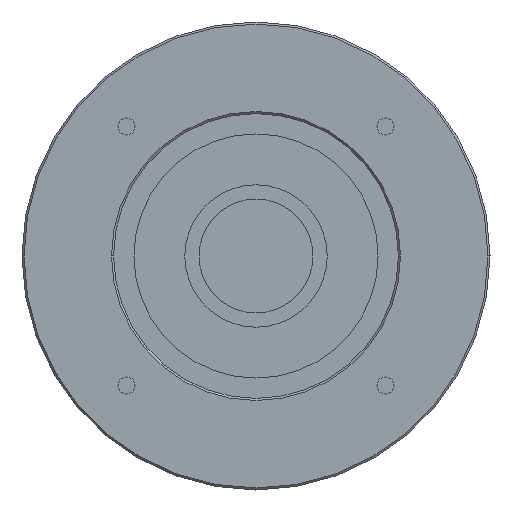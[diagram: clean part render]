
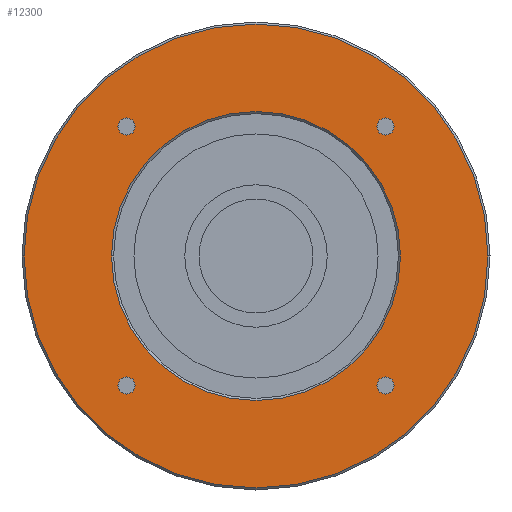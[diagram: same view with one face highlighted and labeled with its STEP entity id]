
A CAD part, left-side view. The second image highlights one B-rep face of the part: STEP entity #12300.
In plain terms, the highlighted planar face has unit normal (-1, 0, 0) as drawn and (0, 0, -1) by its records, which use the part's own axes.
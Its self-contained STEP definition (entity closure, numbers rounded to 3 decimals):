
#8810=CARTESIAN_POINT('',(31.82,-29.72,-64.4));
#8820=VERTEX_POINT('',#8810);
#8870=CARTESIAN_POINT('',(31.82,-31.82,-64.4));
#8880=DIRECTION('',(0.,0.,-1.));
#8890=DIRECTION('',(1.,0.,0.));
#8900=AXIS2_PLACEMENT_3D('',#8870,#8880,#8890);
#8910=CIRCLE('',#8900,2.1);
#8920=CARTESIAN_POINT('',(31.82,-33.92,-64.4));
#8930=VERTEX_POINT('',#8920);
#8940=EDGE_CURVE('',#8930,#8820,#8910,.T.);
#9230=CARTESIAN_POINT('',(31.82,33.92,-64.4));
#9240=VERTEX_POINT('',#9230);
#9290=CARTESIAN_POINT('',(31.82,31.82,-64.4));
#9300=DIRECTION('',(0.,0.,-1.));
#9310=DIRECTION('',(1.,0.,0.));
#9320=AXIS2_PLACEMENT_3D('',#9290,#9300,#9310);
#9330=CIRCLE('',#9320,2.1);
#9340=CARTESIAN_POINT('',(31.82,29.72,-64.4));
#9350=VERTEX_POINT('',#9340);
#9360=EDGE_CURVE('',#9350,#9240,#9330,.T.);
#11130=CARTESIAN_POINT('',(57.,0.,-64.4));
#11140=VERTEX_POINT('',#11130);
#11170=CARTESIAN_POINT('',(0.,0.,
-64.4));
#11180=DIRECTION('',(0.,0.,-1.));
#11190=DIRECTION('',(0.,-1.,0.));
#11200=AXIS2_PLACEMENT_3D('',#11170,#11180,#11190);
#11210=CIRCLE('',#11200,57.);
#11220=CARTESIAN_POINT('',(0.,-57.,-64.4));
#11230=VERTEX_POINT('',#11220);
#11240=EDGE_CURVE('',#11140,#11230,#11210,.T.);
#11260=CARTESIAN_POINT('',(-57.,0.,-64.4));
#11270=VERTEX_POINT('',#11260);
#11280=EDGE_CURVE('',#11230,#11270,#11210,.T.);
#11440=CARTESIAN_POINT('',(0.,0.,
-64.4));
#11450=DIRECTION('',(0.,0.,-1.));
#11460=DIRECTION('',(0.,-1.,0.));
#11470=AXIS2_PLACEMENT_3D('',#11440,#11450,#11460);
#11480=PLANE('',#11470);
#11490=EDGE_CURVE('',#11270,#11140,#11210,.T.);
#11500=ORIENTED_EDGE('',*,*,#11490,.T.);
#11510=ORIENTED_EDGE('',*,*,#11280,.T.);
#11520=ORIENTED_EDGE('',*,*,#11240,.T.);
#11530=EDGE_LOOP('',(#11520,#11510,#11500));
#11540=FACE_OUTER_BOUND('',#11530,.T.);
#11550=CARTESIAN_POINT('',(0.,0.,
-64.4));
#11560=DIRECTION('',(0.,0.,-1.));
#11570=DIRECTION('',(0.,-1.,0.));
#11580=AXIS2_PLACEMENT_3D('',#11550,#11560,#11570);
#11590=CIRCLE('',#11580,35.5);
#11600=CARTESIAN_POINT('',(0.,-35.5,-64.4));
#11610=VERTEX_POINT('',#11600);
#11620=CARTESIAN_POINT('',(-35.5,0.,-64.4));
#11630=VERTEX_POINT('',#11620);
#11640=EDGE_CURVE('',#11610,#11630,#11590,.T.);
#11650=ORIENTED_EDGE('',*,*,#11640,.F.);
#11660=CARTESIAN_POINT('',(35.5,0.,-64.4));
#11670=VERTEX_POINT('',#11660);
#11680=EDGE_CURVE('',#11630,#11670,#11590,.T.);
#11690=ORIENTED_EDGE('',*,*,#11680,.F.);
#11700=EDGE_CURVE('',#11670,#11610,#11590,.T.);
#11710=ORIENTED_EDGE('',*,*,#11700,.F.);
#11720=EDGE_LOOP('',(#11710,#11690,#11650));
#11730=FACE_BOUND('',#11720,.T.);
#11740=CARTESIAN_POINT('',(-31.82,-31.82,-64.4));
#11750=DIRECTION('',(0.,0.,-1.));
#11760=DIRECTION('',(1.,0.,0.));
#11770=AXIS2_PLACEMENT_3D('',#11740,#11750,#11760);
#11780=CIRCLE('',#11770,2.1);
#11790=CARTESIAN_POINT('',(-29.72,-31.82,-64.4));
#11800=VERTEX_POINT('',#11790);
#11810=CARTESIAN_POINT('',(-31.82,-33.92,-64.4));
#11820=VERTEX_POINT('',#11810);
#11830=EDGE_CURVE('',#11800,#11820,#11780,.T.);
#11840=ORIENTED_EDGE('',*,*,#11830,.F.);
#11850=CARTESIAN_POINT('',(-31.82,-29.72,-64.4));
#11860=VERTEX_POINT('',#11850);
#11870=EDGE_CURVE('',#11820,#11860,#11780,.T.);
#11880=ORIENTED_EDGE('',*,*,#11870,.F.);
#11890=EDGE_CURVE('',#11860,#11800,#11780,.T.);
#11900=ORIENTED_EDGE('',*,*,#11890,.F.);
#11910=EDGE_LOOP('',(#11900,#11880,#11840));
#11920=FACE_BOUND('',#11910,.T.);
#11930=CARTESIAN_POINT('',(-31.82,31.82,-64.4));
#11940=DIRECTION('',(0.,0.,-1.));
#11950=DIRECTION('',(1.,0.,0.));
#11960=AXIS2_PLACEMENT_3D('',#11930,#11940,#11950);
#11970=CIRCLE('',#11960,2.1);
#11980=CARTESIAN_POINT('',(-29.72,31.82,-64.4));
#11990=VERTEX_POINT('',#11980);
#12000=CARTESIAN_POINT('',(-31.82,29.72,-64.4));
#12010=VERTEX_POINT('',#12000);
#12020=EDGE_CURVE('',#11990,#12010,#11970,.T.);
#12030=ORIENTED_EDGE('',*,*,#12020,.F.);
#12040=CARTESIAN_POINT('',(-31.82,33.92,-64.4));
#12050=VERTEX_POINT('',#12040);
#12060=EDGE_CURVE('',#12010,#12050,#11970,.T.);
#12070=ORIENTED_EDGE('',*,*,#12060,.F.);
#12080=EDGE_CURVE('',#12050,#11990,#11970,.T.);
#12090=ORIENTED_EDGE('',*,*,#12080,.F.);
#12100=EDGE_LOOP('',(#12090,#12070,#12030));
#12110=FACE_BOUND('',#12100,.T.);
#12120=CARTESIAN_POINT('',(33.92,31.82,-64.4));
#12130=VERTEX_POINT('',#12120);
#12140=EDGE_CURVE('',#12130,#9350,#9330,.T.);
#12150=ORIENTED_EDGE('',*,*,#12140,.F.);
#12160=ORIENTED_EDGE('',*,*,#9360,.F.);
#12170=EDGE_CURVE('',#9240,#12130,#9330,.T.);
#12180=ORIENTED_EDGE('',*,*,#12170,.F.);
#12190=EDGE_LOOP('',(#12180,#12160,#12150));
#12200=FACE_BOUND('',#12190,.T.);
#12210=CARTESIAN_POINT('',(33.92,-31.82,-64.4));
#12220=VERTEX_POINT('',#12210);
#12230=EDGE_CURVE('',#12220,#8930,#8910,.T.);
#12240=ORIENTED_EDGE('',*,*,#12230,.F.);
#12250=ORIENTED_EDGE('',*,*,#8940,.F.);
#12260=EDGE_CURVE('',#8820,#12220,#8910,.T.);
#12270=ORIENTED_EDGE('',*,*,#12260,.F.);
#12280=EDGE_LOOP('',(#12270,#12250,#12240));
#12290=FACE_BOUND('',#12280,.T.);
#12300=ADVANCED_FACE('',(#11540,#11730,#11920,#12110,#12200,#12290),
#11480,.T.);
